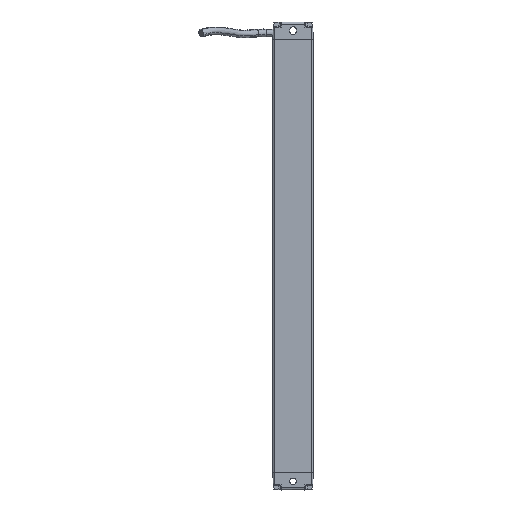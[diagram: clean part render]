
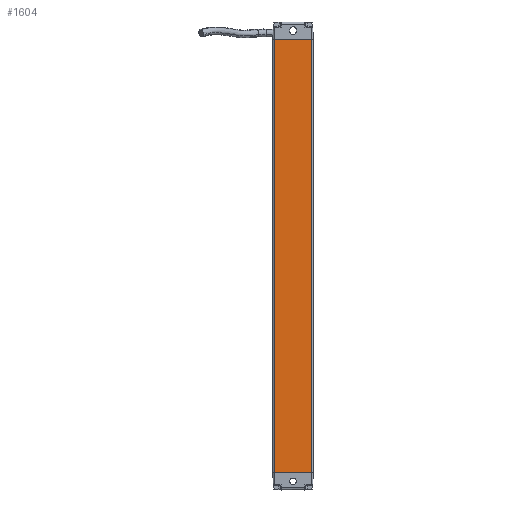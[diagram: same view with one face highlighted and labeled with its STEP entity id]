
A CAD part, front view. The second image highlights one B-rep face of the part: STEP entity #1604.
In plain terms, the highlighted planar face has unit normal (-0.001, -1, 0).
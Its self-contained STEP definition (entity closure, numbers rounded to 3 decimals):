
#1604=ADVANCED_FACE('',(#2720),#2349,.T.);
#2349=PLANE('',#14604);
#2720=FACE_OUTER_BOUND('',#3441,.T.);
#3441=EDGE_LOOP('',(#4477,#4478,#4479,#4480));
#4477=ORIENTED_EDGE('',*,*,#10104,.T.);
#4478=ORIENTED_EDGE('',*,*,#10057,.F.);
#4479=ORIENTED_EDGE('',*,*,#10102,.T.);
#4480=ORIENTED_EDGE('',*,*,#10105,.T.);
#8601=VERTEX_POINT('',#19861);
#8602=VERTEX_POINT('',#19863);
#8639=VERTEX_POINT('',#19952);
#8640=VERTEX_POINT('',#19956);
#10057=EDGE_CURVE('',#8601,#8602,#12174,.T.);
#10102=EDGE_CURVE('',#8601,#8639,#12205,.T.);
#10104=EDGE_CURVE('',#8640,#8602,#12206,.T.);
#10105=EDGE_CURVE('',#8639,#8640,#12207,.T.);
#12174=LINE('',#19862,#13389);
#12205=LINE('',#19951,#13420);
#12206=LINE('',#19955,#13421);
#12207=LINE('',#19957,#13422);
#13389=VECTOR('',#16033,1.);
#13420=VECTOR('',#16106,1.);
#13421=VECTOR('',#16111,1.);
#13422=VECTOR('',#16112,1.);
#14604=AXIS2_PLACEMENT_3D('',#19958,#16113,#16114);
#16033=DIRECTION('',(1.,-0.001,0.));
#16106=DIRECTION('',(0.,0.,-1.));
#16111=DIRECTION('',(0.,0.,1.));
#16112=DIRECTION('',(1.,-0.001,0.));
#16113=DIRECTION('',(-0.001,-1.,0.));
#16114=DIRECTION('',(-1.,0.001,0.));
#19861=CARTESIAN_POINT('',(53.048,-142.376,500.376));
#19862=CARTESIAN_POINT('',(79.028,-142.395,500.376));
#19863=CARTESIAN_POINT('',(79.028,-142.395,500.376));
#19951=CARTESIAN_POINT('',(53.048,-142.376,543.376));
#19952=CARTESIAN_POINT('',(53.048,-142.376,198.376));
#19955=CARTESIAN_POINT('',(79.028,-142.395,198.376));
#19956=CARTESIAN_POINT('',(79.028,-142.395,198.376));
#19957=CARTESIAN_POINT('',(53.048,-142.376,198.376));
#19958=CARTESIAN_POINT('',(79.028,-142.395,543.376));
